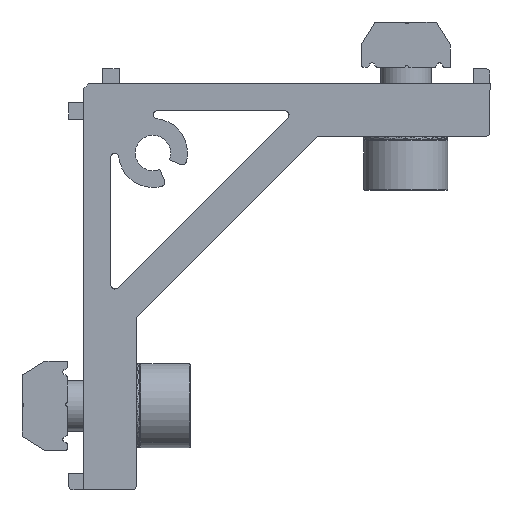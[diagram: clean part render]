
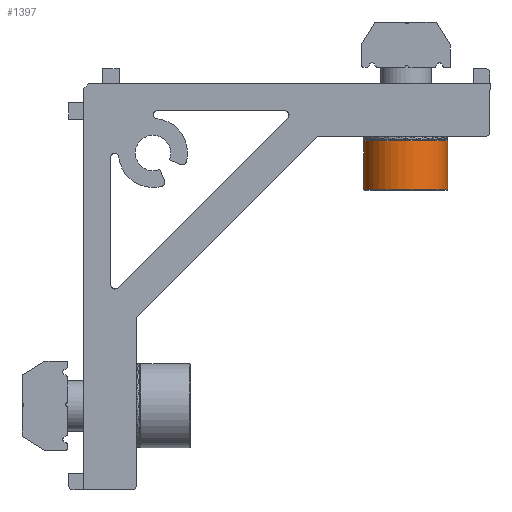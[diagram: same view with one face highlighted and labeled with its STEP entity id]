
A CAD part, front view. The second image highlights one B-rep face of the part: STEP entity #1397.
In plain terms, the highlighted cylindrical face has radius 5 mm (diameter 10 mm), a partial arc.
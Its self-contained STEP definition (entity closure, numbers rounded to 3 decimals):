
#63 = ORIENTED_EDGE ( 'NONE', *, *, #2423, .T. ) ;
#243 = AXIS2_PLACEMENT_3D ( 'NONE', #8614, #4631, #6210 ) ;
#1397 = ADVANCED_FACE ( 'NONE', ( #3530 ), #9584, .T. ) ;
#1527 = EDGE_LOOP ( 'NONE', ( #3471, #4532, #5727, #63 ) ) ;
#1619 = CARTESIAN_POINT ( 'NONE',  ( 0., 14.1, 0. ) ) ;
#1658 = EDGE_CURVE ( 'NONE', #7426, #10298, #8446, .T. ) ;
#1824 = VECTOR ( 'NONE', #3988, 1000. ) ;
#2100 = DIRECTION ( 'NONE',  ( 0., -1., 0. ) ) ;
#2179 = DIRECTION ( 'NONE',  ( 1., 0., 0. ) ) ;
#2308 = CARTESIAN_POINT ( 'NONE',  ( 5., 0., 0. ) ) ;
#2423 = EDGE_CURVE ( 'NONE', #10298, #5807, #5950, .T. ) ;
#2849 = CARTESIAN_POINT ( 'NONE',  ( 0., 0., 0. ) ) ;
#2968 = LINE ( 'NONE', #8931, #1824 ) ;
#3154 = EDGE_CURVE ( 'NONE', #5641, #5807, #2968, .T. ) ;
#3471 = ORIENTED_EDGE ( 'NONE', *, *, #3154, .F. ) ;
#3530 = FACE_OUTER_BOUND ( 'NONE', #1527, .T. ) ;
#3936 = AXIS2_PLACEMENT_3D ( 'NONE', #1619, #9845, #4936 ) ;
#3988 = DIRECTION ( 'NONE',  ( 0., -1., 0. ) ) ;
#4417 = CIRCLE ( 'NONE', #243, 5. ) ;
#4532 = ORIENTED_EDGE ( 'NONE', *, *, #7760, .T. ) ;
#4631 = DIRECTION ( 'NONE',  ( 0., -1., 0. ) ) ;
#4936 = DIRECTION ( 'NONE',  ( 1., 0., 0. ) ) ;
#5641 = VERTEX_POINT ( 'NONE', #9092 ) ;
#5727 = ORIENTED_EDGE ( 'NONE', *, *, #1658, .T. ) ;
#5807 = VERTEX_POINT ( 'NONE', #8672 ) ;
#5950 = CIRCLE ( 'NONE', #3936, 5. ) ;
#6210 = DIRECTION ( 'NONE',  ( -1., 0., 0. ) ) ;
#7426 = VERTEX_POINT ( 'NONE', #10553 ) ;
#7716 = AXIS2_PLACEMENT_3D ( 'NONE', #2849, #2100, #2179 ) ;
#7760 = EDGE_CURVE ( 'NONE', #5641, #7426, #4417, .T. ) ;
#8446 = LINE ( 'NONE', #2308, #9075 ) ;
#8614 = CARTESIAN_POINT ( 'NONE',  ( 0., 19.9, 0. ) ) ;
#8672 = CARTESIAN_POINT ( 'NONE',  ( -5., 14.1, 0. ) ) ;
#8931 = CARTESIAN_POINT ( 'NONE',  ( -5., 0., 0. ) ) ;
#9075 = VECTOR ( 'NONE', #10449, 1000. ) ;
#9092 = CARTESIAN_POINT ( 'NONE',  ( -5., 19.9, 0. ) ) ;
#9584 = CYLINDRICAL_SURFACE ( 'NONE', #7716, 5. ) ;
#9845 = DIRECTION ( 'NONE',  ( 0., 1., 0. ) ) ;
#10298 = VERTEX_POINT ( 'NONE', #10532 ) ;
#10449 = DIRECTION ( 'NONE',  ( 0., -1., 0. ) ) ;
#10532 = CARTESIAN_POINT ( 'NONE',  ( 5., 14.1, 0. ) ) ;
#10553 = CARTESIAN_POINT ( 'NONE',  ( 5., 19.9, 0. ) ) ;
